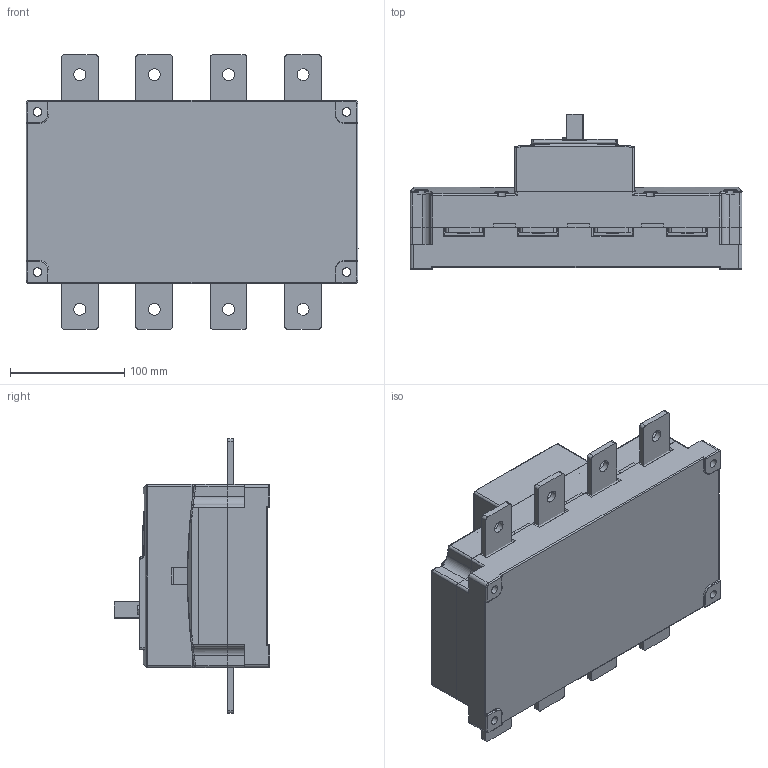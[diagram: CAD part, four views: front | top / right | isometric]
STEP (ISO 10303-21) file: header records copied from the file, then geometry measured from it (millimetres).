
FILE_DESCRIPTION((''),'2;1');
FILE_NAME('NH40-315-4_ASM','2018-05-15T',('zhuanghy'),(''),'PRO/ENGINEER BY PARAMETRIC TECHNOLOGY CORPORATION, 2008380','PRO/ENGINEER BY PARAMETRIC TECHNOLOGY CORPORATION, 2008380','');
FILE_SCHEMA(('CONFIG_CONTROL_DESIGN'));
Length unit declared in the file: millimetre
Products named in the file (7): PRT2015_72; NH40-630-4-064_46; NH40-630-310_38; PRT0047; PRT0048; ASM0001_ASM_1_ASM; NH40-315-4_ASM
Assembly tree (13 placements, depth 3):
  NH40-315-4_ASM
    ASM0001_ASM_1_ASM
      PRT2015_72
      NH40-630-4-064_46
      NH40-630-310_38
      PRT0047  x8
      PRT0048
Bounding box: 290 x 136 x 240 mm (x, y, z)
Volume: 4239913.1 mm3; surface area: 431063.3 mm2
Topology: 12 solids, 13 shells, 1064 faces, 2766 edges, 1733 vertices
Faces by surface type: cylinder 443, plane 385, bspline 106, torus 105, sphere 17, cone 8
Entity records: 42421 total; most frequent: CARTESIAN_POINT 20057, ORIENTED_EDGE 4794, DIRECTION 4479, EDGE_CURVE 2397, AXIS2_PLACEMENT_3D 1643, VERTEX_POINT 1495, VECTOR 1193, LINE 1193
